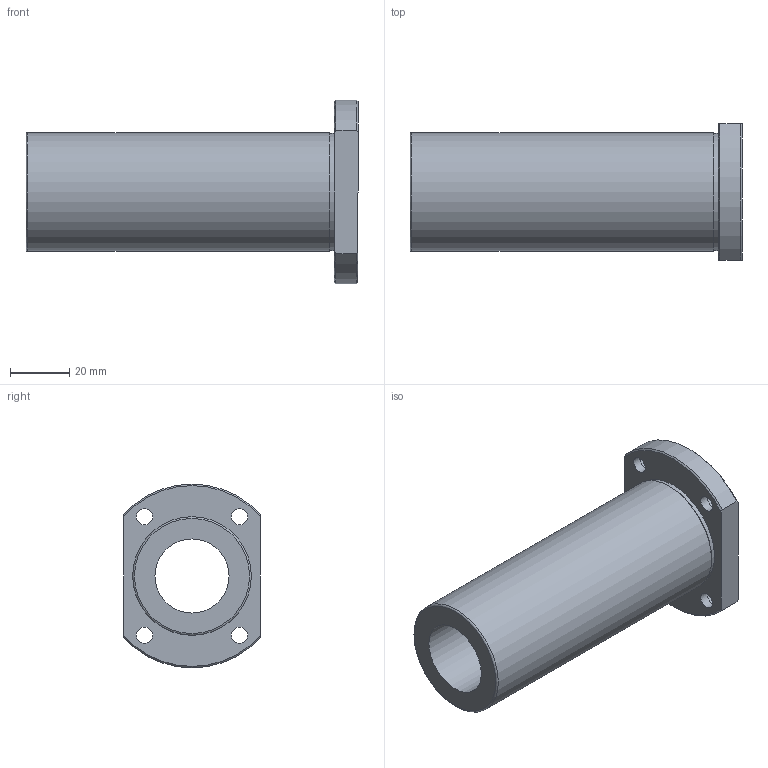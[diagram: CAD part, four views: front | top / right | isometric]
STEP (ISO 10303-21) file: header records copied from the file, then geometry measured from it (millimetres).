
FILE_DESCRIPTION(('STEP AP203'),'1');
FILE_NAME('//192.168.1.1/share/s-4 技術開発/s-4-4_CAD/s-4-4-3_見直し済み/002 修正済み/NFEO-VL/NFEO-VL_TOP/NFEO-25VLUU.step','2022-03-07T05:14:18',(' '),(' '),'Spatial InterOp 3D',' ',' ');
FILE_SCHEMA(('CONFIG_CONTROL_DESIGN'));
Length unit declared in the file: millimetre
Products named in the file (1): 1
Bounding box: 112 x 46 x 62 mm (x, y, z)
Volume: 94555.8 mm3; surface area: 28056.2 mm2
Topology: 1 solids, 1 shells, 28 faces, 59 edges, 39 vertices
Faces by surface type: cylinder 13, plane 10, cone 4, torus 1
Full cylindrical faces by diameter (mm): 5.5 x4, 9 x4, 25 x1, 39.5 x1, 40 x1
Entity records: 778 total; most frequent: CARTESIAN_POINT 139, DIRECTION 128, ORIENTED_EDGE 94, AXIS2_PLACEMENT_3D 60, EDGE_LOOP 56, EDGE_CURVE 47, FACE_OUTER_BOUND 40, VERTEX_POINT 39
